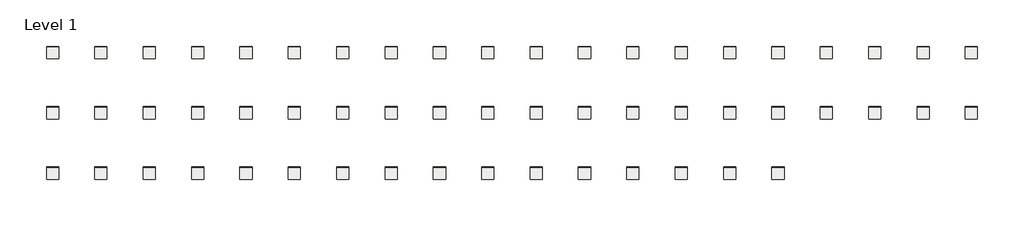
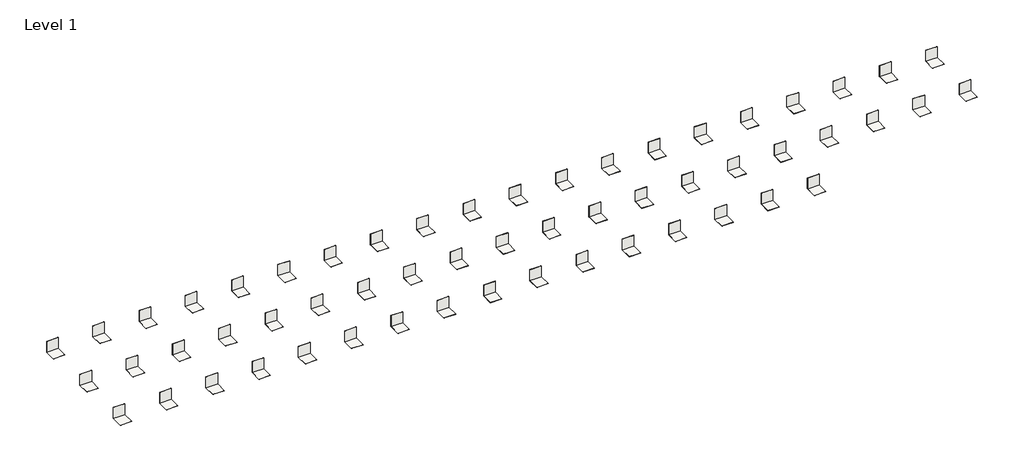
# One storey: 112 coverings.
"""IFC4 building model written with IfcOpenShell, lengths in millimetres."""

from ifc_helpers import new_model, si_unit, frame, origin, origin_with_axes, place, context, project, spatial, polyline, outline, extrude, element, save

model = new_model("IFC4")

# Units and contexts
model_context = context("Model", 3, world=origin())
ifc_project = project(units=[si_unit("LENGTHUNIT", "METRE", prefix="MILLI")], contexts=[model_context])

# Site, building, storey
site = spatial("IfcSite", under=ifc_project)
building = spatial("IfcBuilding", under=site)
storey = spatial("IfcBuildingStorey", under=building, Name="Level 1", Elevation=0.0)

# Coverings
placement = place(None, origin())
element("IfcCovering", 1, ObjectType="REVIGRÉS-CROMATICA-TC-7x7-MATTNAT-Cromatica_alloy", at=placement, inside=storey, context=model_context, shape_type="SweptSolid", body=[
    extrude(outline(polyline([(2002.0475963, 398.4324289), (1002.0475963, 398.4324289), (1002.0475963, 1398.4324289), (2002.0475963, 1398.4324289), (2002.0475963, 398.4324289)])), frame((0.0, 0.0, -8.5), z_axis=(0.0, 0.0, 1.0), x_axis=(1.0, 0.0, 0.0)), (0.0, 0.0, 1.0), 8.5),
])
element("IfcCovering", 2, ObjectType="REVIGRÉS-CROMATICA-TC-7x7-MATTNAT-Cromatica_alloy", at=placement, inside=storey, context=model_context, shape_type="SweptSolid", body=[
    extrude(outline(polyline([(2002.0475963, 1398.4324289), (1002.0475963, 1398.4324289), (1002.0475963, 1406.9324289), (2002.0475963, 1406.9324289), (2002.0475963, 1398.4324289)])), origin_with_axes(), (0.0, 0.0, 1.0), 1000.0),
])
element("IfcCovering", 3, ObjectType="REVIGRÉS-CROMATICA-TC-7x7-POL-Cromatica_alloy", at=placement, inside=storey, context=model_context, shape_type="SweptSolid", body=[
    extrude(outline(polyline([(6002.0475963, 398.6824289), (5002.0475963, 398.6824289), (5002.0475963, 1398.6824289), (6002.0475963, 1398.6824289), (6002.0475963, 398.6824289)])), frame((0.0, 0.0, -8.0), z_axis=(0.0, 0.0, 1.0), x_axis=(1.0, 0.0, 0.0)), (0.0, 0.0, 1.0), 8.0),
])
element("IfcCovering", 4, ObjectType="REVIGRÉS-CROMATICA-TC-7x7-POL-Cromatica_alloy", at=placement, inside=storey, context=model_context, shape_type="SweptSolid", body=[
    extrude(outline(polyline([(6002.0475963, 1398.6824289), (5002.0475963, 1398.6824289), (5002.0475963, 1406.6824289), (6002.0475963, 1406.6824289), (6002.0475963, 1398.6824289)])), origin_with_axes(), (0.0, 0.0, 1.0), 1000.0),
])
element("IfcCovering", 5, ObjectType="REVIGRÉS-CROMATICA-TC-7x7-MATTNAT-Cromatica_anis", at=placement, inside=storey, context=model_context, shape_type="SweptSolid", body=[
    extrude(outline(polyline([(10002.0475963, 398.4324289), (9002.0475963, 398.4324289), (9002.0475963, 1398.4324289), (10002.0475963, 1398.4324289), (10002.0475963, 398.4324289)])), frame((0.0, 0.0, -8.5), z_axis=(0.0, 0.0, 1.0), x_axis=(1.0, 0.0, 0.0)), (0.0, 0.0, 1.0), 8.5),
])
element("IfcCovering", 6, ObjectType="REVIGRÉS-CROMATICA-TC-7x7-MATTNAT-Cromatica_anis", at=placement, inside=storey, context=model_context, shape_type="SweptSolid", body=[
    extrude(outline(polyline([(10002.0475963, 1398.4324289), (9002.0475963, 1398.4324289), (9002.0475963, 1406.9324289), (10002.0475963, 1406.9324289), (10002.0475963, 1398.4324289)])), origin_with_axes(), (0.0, 0.0, 1.0), 1000.0),
])
element("IfcCovering", 7, ObjectType="REVIGRÉS-CROMATICA-TC-7x7-POL-Cromatica_anis", at=placement, inside=storey, context=model_context, shape_type="SweptSolid", body=[
    extrude(outline(polyline([(14002.0475963, 398.6824289), (13002.0475963, 398.6824289), (13002.0475963, 1398.6824289), (14002.0475963, 1398.6824289), (14002.0475963, 398.6824289)])), frame((0.0, 0.0, -8.0), z_axis=(0.0, 0.0, 1.0), x_axis=(1.0, 0.0, 0.0)), (0.0, 0.0, 1.0), 8.0),
])
element("IfcCovering", 8, ObjectType="REVIGRÉS-CROMATICA-TC-7x7-POL-Cromatica_anis", at=placement, inside=storey, context=model_context, shape_type="SweptSolid", body=[
    extrude(outline(polyline([(14002.0475963, 1398.6824289), (13002.0475963, 1398.6824289), (13002.0475963, 1406.6824289), (14002.0475963, 1406.6824289), (14002.0475963, 1398.6824289)])), origin_with_axes(), (0.0, 0.0, 1.0), 1000.0),
])
element("IfcCovering", 9, ObjectType="REVIGRÉS-CROMATICA-TC-7x7-MATTNAT-Cromatica_antracite", at=placement, inside=storey, context=model_context, shape_type="SweptSolid", body=[
    extrude(outline(polyline([(18002.0475963, 398.4324289), (17002.0475963, 398.4324289), (17002.0475963, 1398.4324289), (18002.0475963, 1398.4324289), (18002.0475963, 398.4324289)])), frame((0.0, 0.0, -8.5), z_axis=(0.0, 0.0, 1.0), x_axis=(1.0, 0.0, 0.0)), (0.0, 0.0, 1.0), 8.5),
])
element("IfcCovering", 10, ObjectType="REVIGRÉS-CROMATICA-TC-7x7-MATTNAT-Cromatica_antracite", at=placement, inside=storey, context=model_context, shape_type="SweptSolid", body=[
    extrude(outline(polyline([(18002.0475963, 1398.4324289), (17002.0475963, 1398.4324289), (17002.0475963, 1406.9324289), (18002.0475963, 1406.9324289), (18002.0475963, 1398.4324289)])), origin_with_axes(), (0.0, 0.0, 1.0), 1000.0),
])
element("IfcCovering", 11, ObjectType="REVIGRÉS-CROMATICA-TC-7x7-POL-Cromatica_antracite", at=placement, inside=storey, context=model_context, shape_type="SweptSolid", body=[
    extrude(outline(polyline([(22002.0475963, 398.6824289), (21002.0475963, 398.6824289), (21002.0475963, 1398.6824289), (22002.0475963, 1398.6824289), (22002.0475963, 398.6824289)])), frame((0.0, 0.0, -8.0), z_axis=(0.0, 0.0, 1.0), x_axis=(1.0, 0.0, 0.0)), (0.0, 0.0, 1.0), 8.0),
])
element("IfcCovering", 12, ObjectType="REVIGRÉS-CROMATICA-TC-7x7-POL-Cromatica_antracite", at=placement, inside=storey, context=model_context, shape_type="SweptSolid", body=[
    extrude(outline(polyline([(22002.0475963, 1398.6824289), (21002.0475963, 1398.6824289), (21002.0475963, 1406.6824289), (22002.0475963, 1406.6824289), (22002.0475963, 1398.6824289)])), origin_with_axes(), (0.0, 0.0, 1.0), 1000.0),
])
element("IfcCovering", 13, ObjectType="REVIGRÉS-CROMATICA-TC-7x7-MATTNAT-Cromatica_arg prata", at=placement, inside=storey, context=model_context, shape_type="SweptSolid", body=[
    extrude(outline(polyline([(26002.0475963, 398.4324289), (25002.0475963, 398.4324289), (25002.0475963, 1398.4324289), (26002.0475963, 1398.4324289), (26002.0475963, 398.4324289)])), frame((0.0, 0.0, -8.5), z_axis=(0.0, 0.0, 1.0), x_axis=(1.0, 0.0, 0.0)), (0.0, 0.0, 1.0), 8.5),
])
element("IfcCovering", 14, ObjectType="REVIGRÉS-CROMATICA-TC-7x7-MATTNAT-Cromatica_arg prata", at=placement, inside=storey, context=model_context, shape_type="SweptSolid", body=[
    extrude(outline(polyline([(26002.0475963, 1398.4324289), (25002.0475963, 1398.4324289), (25002.0475963, 1406.9324289), (26002.0475963, 1406.9324289), (26002.0475963, 1398.4324289)])), origin_with_axes(), (0.0, 0.0, 1.0), 1000.0),
])
element("IfcCovering", 15, ObjectType="REVIGRÉS-CROMATICA-TC-7x7-POL-Cromatica_arg prata", at=placement, inside=storey, context=model_context, shape_type="SweptSolid", body=[
    extrude(outline(polyline([(30002.0475963, 398.4324289), (29002.0475963, 398.4324289), (29002.0475963, 1398.6824289), (30002.0475963, 1398.6824289), (30002.0475963, 398.4324289)])), frame((0.0, 0.0, -8.0), z_axis=(0.0, 0.0, 1.0), x_axis=(1.0, 0.0, 0.0)), (0.0, 0.0, 1.0), 8.0),
])
element("IfcCovering", 16, ObjectType="REVIGRÉS-CROMATICA-TC-7x7-POL-Cromatica_arg prata", at=placement, inside=storey, context=model_context, shape_type="SweptSolid", body=[
    extrude(outline(polyline([(30002.0475963, 1398.6824289), (29002.0475963, 1398.6824289), (29002.0475963, 1406.6824289), (30002.0475963, 1406.6824289), (30002.0475963, 1398.6824289)])), origin_with_axes(), (0.0, 0.0, 1.0), 1000.0),
])
element("IfcCovering", 17, ObjectType="REVIGRÉS-CROMATICA-TC-7x7-MATTNAT-Cromatica_astral", at=placement, inside=storey, context=model_context, shape_type="SweptSolid", body=[
    extrude(outline(polyline([(34002.0475963, 398.4324289), (33002.0475963, 398.4324289), (33002.0475963, 1398.4324289), (34002.0475963, 1398.4324289), (34002.0475963, 398.4324289)])), frame((0.0, 0.0, -8.5), z_axis=(0.0, 0.0, 1.0), x_axis=(1.0, 0.0, 0.0)), (0.0, 0.0, 1.0), 8.5),
])
element("IfcCovering", 18, ObjectType="REVIGRÉS-CROMATICA-TC-7x7-MATTNAT-Cromatica_astral", at=placement, inside=storey, context=model_context, shape_type="SweptSolid", body=[
    extrude(outline(polyline([(34002.0475963, 1398.4324289), (33002.0475963, 1398.4324289), (33002.0475963, 1406.9324289), (34002.0475963, 1406.9324289), (34002.0475963, 1398.4324289)])), origin_with_axes(), (0.0, 0.0, 1.0), 1000.0),
])
element("IfcCovering", 19, ObjectType="REVIGRÉS-CROMATICA-TC-7x7-POL-Cromatica_astral", at=placement, inside=storey, context=model_context, shape_type="SweptSolid", body=[
    extrude(outline(polyline([(38002.0475963, 398.4324289), (37002.0475963, 398.4324289), (37002.0475963, 1398.6824289), (38002.0475963, 1398.6824289), (38002.0475963, 398.4324289)])), frame((0.0, 0.0, -8.0), z_axis=(0.0, 0.0, 1.0), x_axis=(1.0, 0.0, 0.0)), (0.0, 0.0, 1.0), 8.0),
])
element("IfcCovering", 20, ObjectType="REVIGRÉS-CROMATICA-TC-7x7-POL-Cromatica_astral", at=placement, inside=storey, context=model_context, shape_type="SweptSolid", body=[
    extrude(outline(polyline([(38002.0475963, 1398.6824289), (37002.0475963, 1398.6824289), (37002.0475963, 1406.6824289), (38002.0475963, 1406.6824289), (38002.0475963, 1398.6824289)])), origin_with_axes(), (0.0, 0.0, 1.0), 1000.0),
])
element("IfcCovering", 21, ObjectType="REVIGRÉS-CROMATICA-TC-7x7-MATTNAT-Cromatica_bege", at=placement, inside=storey, context=model_context, shape_type="SweptSolid", body=[
    extrude(outline(polyline([(42002.0475963, 398.4324289), (41002.0475963, 398.4324289), (41002.0475963, 1398.4324289), (42002.0475963, 1398.4324289), (42002.0475963, 398.4324289)])), frame((0.0, 0.0, -8.5), z_axis=(0.0, 0.0, 1.0), x_axis=(1.0, 0.0, 0.0)), (0.0, 0.0, 1.0), 8.5),
])
element("IfcCovering", 22, ObjectType="REVIGRÉS-CROMATICA-TC-7x7-MATTNAT-Cromatica_bege", at=placement, inside=storey, context=model_context, shape_type="SweptSolid", body=[
    extrude(outline(polyline([(42002.0475963, 1398.4324289), (41002.0475963, 1398.4324289), (41002.0475963, 1406.9324289), (42002.0475963, 1406.9324289), (42002.0475963, 1398.4324289)])), origin_with_axes(), (0.0, 0.0, 1.0), 1000.0),
])
element("IfcCovering", 23, ObjectType="REVIGRÉS-CROMATICA-TC-7x7-POL-Cromatica_bege", at=placement, inside=storey, context=model_context, shape_type="SweptSolid", body=[
    extrude(outline(polyline([(46002.0475963, 398.4324289), (45002.0475963, 398.4324289), (45002.0475963, 1398.6824289), (46002.0475963, 1398.6824289), (46002.0475963, 398.4324289)])), frame((0.0, 0.0, -8.0), z_axis=(0.0, 0.0, 1.0), x_axis=(1.0, 0.0, 0.0)), (0.0, 0.0, 1.0), 8.0),
])
element("IfcCovering", 24, ObjectType="REVIGRÉS-CROMATICA-TC-7x7-POL-Cromatica_bege", at=placement, inside=storey, context=model_context, shape_type="SweptSolid", body=[
    extrude(outline(polyline([(46002.0475963, 1398.6824289), (45002.0475963, 1398.6824289), (45002.0475963, 1406.6824289), (46002.0475963, 1406.6824289), (46002.0475963, 1398.6824289)])), origin_with_axes(), (0.0, 0.0, 1.0), 1000.0),
])
element("IfcCovering", 25, ObjectType="REVIGRÉS-CROMATICA-TC-7x7-MATTNAT-Cromatica_bone", at=placement, inside=storey, context=model_context, shape_type="SweptSolid", body=[
    extrude(outline(polyline([(50002.0475963, 398.4324289), (49002.0475963, 398.4324289), (49002.0475963, 1398.4324289), (50002.0475963, 1398.4324289), (50002.0475963, 398.4324289)])), frame((0.0, 0.0, -8.5), z_axis=(0.0, 0.0, 1.0), x_axis=(1.0, 0.0, 0.0)), (0.0, 0.0, 1.0), 8.5),
])
element("IfcCovering", 26, ObjectType="REVIGRÉS-CROMATICA-TC-7x7-MATTNAT-Cromatica_bone", at=placement, inside=storey, context=model_context, shape_type="SweptSolid", body=[
    extrude(outline(polyline([(50002.0475963, 1398.4324289), (49002.0475963, 1398.4324289), (49002.0475963, 1406.9324289), (50002.0475963, 1406.9324289), (50002.0475963, 1398.4324289)])), origin_with_axes(), (0.0, 0.0, 1.0), 1000.0),
])
element("IfcCovering", 27, ObjectType="REVIGRÉS-CROMATICA-TC-7x7-POL-Cromatica_bone", at=placement, inside=storey, context=model_context, shape_type="SweptSolid", body=[
    extrude(outline(polyline([(54002.0475963, 398.4324289), (53002.0475963, 398.4324289), (53002.0475963, 1398.6824289), (54002.0475963, 1398.6824289), (54002.0475963, 398.4324289)])), frame((0.0, 0.0, -8.0), z_axis=(0.0, 0.0, 1.0), x_axis=(1.0, 0.0, 0.0)), (0.0, 0.0, 1.0), 8.0),
])
element("IfcCovering", 28, ObjectType="REVIGRÉS-CROMATICA-TC-7x7-POL-Cromatica_bone", at=placement, inside=storey, context=model_context, shape_type="SweptSolid", body=[
    extrude(outline(polyline([(54002.0475963, 1398.6824289), (53002.0475963, 1398.6824289), (53002.0475963, 1406.6824289), (54002.0475963, 1406.6824289), (54002.0475963, 1398.6824289)])), origin_with_axes(), (0.0, 0.0, 1.0), 1000.0),
])
element("IfcCovering", 29, ObjectType="REVIGRÉS-CROMATICA-TC-7x7-MATTNAT-Cromatica_brick", at=placement, inside=storey, context=model_context, shape_type="SweptSolid", body=[
    extrude(outline(polyline([(58002.0475963, 398.4324289), (57002.0475963, 398.4324289), (57002.0475963, 1398.4324289), (58002.0475963, 1398.4324289), (58002.0475963, 398.4324289)])), frame((0.0, 0.0, -8.5), z_axis=(0.0, 0.0, 1.0), x_axis=(1.0, 0.0, 0.0)), (0.0, 0.0, 1.0), 8.5),
])
element("IfcCovering", 30, ObjectType="REVIGRÉS-CROMATICA-TC-7x7-MATTNAT-Cromatica_brick", at=placement, inside=storey, context=model_context, shape_type="SweptSolid", body=[
    extrude(outline(polyline([(58002.0475963, 1398.4324289), (57002.0475963, 1398.4324289), (57002.0475963, 1406.9324289), (58002.0475963, 1406.9324289), (58002.0475963, 1398.4324289)])), origin_with_axes(), (0.0, 0.0, 1.0), 1000.0),
])
element("IfcCovering", 31, ObjectType="REVIGRÉS-CROMATICA-TC-7x7-POL-Cromatica_brick", at=placement, inside=storey, context=model_context, shape_type="SweptSolid", body=[
    extrude(outline(polyline([(62002.0475963, 398.4324289), (61002.0475963, 398.4324289), (61002.0475963, 1398.6824289), (62002.0475963, 1398.6824289), (62002.0475963, 398.4324289)])), frame((0.0, 0.0, -8.0), z_axis=(0.0, 0.0, 1.0), x_axis=(1.0, 0.0, 0.0)), (0.0, 0.0, 1.0), 8.0),
])
element("IfcCovering", 32, ObjectType="REVIGRÉS-CROMATICA-TC-7x7-POL-Cromatica_brick", at=placement, inside=storey, context=model_context, shape_type="SweptSolid", body=[
    extrude(outline(polyline([(62002.0475963, 1398.6824289), (61002.0475963, 1398.6824289), (61002.0475963, 1406.6824289), (62002.0475963, 1406.6824289), (62002.0475963, 1398.6824289)])), origin_with_axes(), (0.0, 0.0, 1.0), 1000.0),
])
element("IfcCovering", 33, ObjectType="REVIGRÉS-CROMATICA-TC-7x7-MATTNAT-Cromatica_cobalto", at=placement, inside=storey, context=model_context, shape_type="SweptSolid", body=[
    extrude(outline(polyline([(66002.0475963, 398.4324289), (65002.0475963, 398.4324289), (65002.0475963, 1398.4324289), (66002.0475963, 1398.4324289), (66002.0475963, 398.4324289)])), frame((0.0, 0.0, -8.5), z_axis=(0.0, 0.0, 1.0), x_axis=(1.0, 0.0, 0.0)), (0.0, 0.0, 1.0), 8.5),
])
element("IfcCovering", 34, ObjectType="REVIGRÉS-CROMATICA-TC-7x7-MATTNAT-Cromatica_cobalto", at=placement, inside=storey, context=model_context, shape_type="SweptSolid", body=[
    extrude(outline(polyline([(66002.0475963, 1398.4324289), (65002.0475963, 1398.4324289), (65002.0475963, 1406.9324289), (66002.0475963, 1406.9324289), (66002.0475963, 1398.4324289)])), origin_with_axes(), (0.0, 0.0, 1.0), 1000.0),
])
element("IfcCovering", 35, ObjectType="REVIGRÉS-CROMATICA-TC-7x7-POL-Cromatica_cobalto", at=placement, inside=storey, context=model_context, shape_type="SweptSolid", body=[
    extrude(outline(polyline([(70002.0475963, 398.4324289), (69002.0475963, 398.4324289), (69002.0475963, 1398.6824289), (70002.0475963, 1398.6824289), (70002.0475963, 398.4324289)])), frame((0.0, 0.0, -8.0), z_axis=(0.0, 0.0, 1.0), x_axis=(1.0, 0.0, 0.0)), (0.0, 0.0, 1.0), 8.0),
])
element("IfcCovering", 36, ObjectType="REVIGRÉS-CROMATICA-TC-7x7-POL-Cromatica_cobalto", at=placement, inside=storey, context=model_context, shape_type="SweptSolid", body=[
    extrude(outline(polyline([(70002.0475963, 1398.6824289), (69002.0475963, 1398.6824289), (69002.0475963, 1406.6824289), (70002.0475963, 1406.6824289), (70002.0475963, 1398.6824289)])), origin_with_axes(), (0.0, 0.0, 1.0), 1000.0),
])
element("IfcCovering", 37, ObjectType="REVIGRÉS-CROMATICA-TC-7x7-MATTNAT-Cromatica_coral", at=placement, inside=storey, context=model_context, shape_type="SweptSolid", body=[
    extrude(outline(polyline([(74002.0475963, 398.4324289), (73002.0475963, 398.4324289), (73002.0475963, 1398.4324289), (74002.0475963, 1398.4324289), (74002.0475963, 398.4324289)])), frame((0.0, 0.0, -8.5), z_axis=(0.0, 0.0, 1.0), x_axis=(1.0, 0.0, 0.0)), (0.0, 0.0, 1.0), 8.5),
])
element("IfcCovering", 38, ObjectType="REVIGRÉS-CROMATICA-TC-7x7-MATTNAT-Cromatica_coral", at=placement, inside=storey, context=model_context, shape_type="SweptSolid", body=[
    extrude(outline(polyline([(74002.0475963, 1398.4324289), (73002.0475963, 1398.4324289), (73002.0475963, 1406.9324289), (74002.0475963, 1406.9324289), (74002.0475963, 1398.4324289)])), origin_with_axes(), (0.0, 0.0, 1.0), 1000.0),
])
element("IfcCovering", 39, ObjectType="REVIGRÉS-CROMATICA-TC-7x7-POL-Cromatica_coral", at=placement, inside=storey, context=model_context, shape_type="SweptSolid", body=[
    extrude(outline(polyline([(78002.0475963, 398.4324289), (77002.0475963, 398.4324289), (77002.0475963, 1398.6824289), (78002.0475963, 1398.6824289), (78002.0475963, 398.4324289)])), frame((0.0, 0.0, -8.0), z_axis=(0.0, 0.0, 1.0), x_axis=(1.0, 0.0, 0.0)), (0.0, 0.0, 1.0), 8.0),
])
element("IfcCovering", 40, ObjectType="REVIGRÉS-CROMATICA-TC-7x7-POL-Cromatica_coral", at=placement, inside=storey, context=model_context, shape_type="SweptSolid", body=[
    extrude(outline(polyline([(78002.0475963, 1398.6824289), (77002.0475963, 1398.6824289), (77002.0475963, 1406.6824289), (78002.0475963, 1406.6824289), (78002.0475963, 1398.6824289)])), origin_with_axes(), (0.0, 0.0, 1.0), 1000.0),
])
element("IfcCovering", 41, ObjectType="REVIGRÉS-CROMATICA-TC-7x7-MATTNAT-Cromatica_grafite", at=placement, inside=storey, context=model_context, shape_type="SweptSolid", body=[
    extrude(outline(polyline([(2002.0475963, -4601.567571), (1002.0475963, -4601.567571), (1002.0475963, -3601.567571), (2002.0475963, -3601.567571), (2002.0475963, -4601.567571)])), frame((0.0, 0.0, -8.5), z_axis=(0.0, 0.0, 1.0), x_axis=(1.0, 0.0, 0.0)), (0.0, 0.0, 1.0), 8.5),
])
element("IfcCovering", 42, ObjectType="REVIGRÉS-CROMATICA-TC-7x7-MATTNAT-Cromatica_grafite", at=placement, inside=storey, context=model_context, shape_type="SweptSolid", body=[
    extrude(outline(polyline([(2002.0475963, -3601.567571), (1002.0475963, -3601.567571), (1002.0475963, -3593.067571), (2002.0475963, -3593.067571), (2002.0475963, -3601.567571)])), origin_with_axes(), (0.0, 0.0, 1.0), 1000.0),
])
element("IfcCovering", 43, ObjectType="REVIGRÉS-CROMATICA-TC-7x7-POL-Cromatica_grafite", at=placement, inside=storey, context=model_context, shape_type="SweptSolid", body=[
    extrude(outline(polyline([(6002.0475963, -4601.317571), (5002.0475963, -4601.317571), (5002.0475963, -3601.317571), (6002.0475963, -3601.317571), (6002.0475963, -4601.317571)])), frame((0.0, 0.0, -8.0), z_axis=(0.0, 0.0, 1.0), x_axis=(1.0, 0.0, 0.0)), (0.0, 0.0, 1.0), 8.0),
])
element("IfcCovering", 44, ObjectType="REVIGRÉS-CROMATICA-TC-7x7-POL-Cromatica_grafite", at=placement, inside=storey, context=model_context, shape_type="SweptSolid", body=[
    extrude(outline(polyline([(6002.0475963, -3601.317571), (5002.0475963, -3601.317571), (5002.0475963, -3593.317571), (6002.0475963, -3593.317571), (6002.0475963, -3601.317571)])), origin_with_axes(), (0.0, 0.0, 1.0), 1000.0),
])
element("IfcCovering", 45, ObjectType="REVIGRÉS-CROMATICA-TC-7x7-MATTNAT-Cromatica_ice", at=placement, inside=storey, context=model_context, shape_type="SweptSolid", body=[
    extrude(outline(polyline([(10002.0475963, -4601.567571), (9002.0475963, -4601.567571), (9002.0475963, -3601.567571), (10002.0475963, -3601.567571), (10002.0475963, -4601.567571)])), frame((0.0, 0.0, -8.5), z_axis=(0.0, 0.0, 1.0), x_axis=(1.0, 0.0, 0.0)), (0.0, 0.0, 1.0), 8.5),
])
element("IfcCovering", 46, ObjectType="REVIGRÉS-CROMATICA-TC-7x7-MATTNAT-Cromatica_ice", at=placement, inside=storey, context=model_context, shape_type="SweptSolid", body=[
    extrude(outline(polyline([(10002.0475963, -3601.567571), (9002.0475963, -3601.567571), (9002.0475963, -3593.067571), (10002.0475963, -3593.067571), (10002.0475963, -3601.567571)])), origin_with_axes(), (0.0, 0.0, 1.0), 1000.0),
])
element("IfcCovering", 47, ObjectType="REVIGRÉS-CROMATICA-TC-7x7-POL-Cromatica_ice", at=placement, inside=storey, context=model_context, shape_type="SweptSolid", body=[
    extrude(outline(polyline([(14002.0475963, -4601.317571), (13002.0475963, -4601.317571), (13002.0475963, -3601.317571), (14002.0475963, -3601.317571), (14002.0475963, -4601.317571)])), frame((0.0, 0.0, -8.0), z_axis=(0.0, 0.0, 1.0), x_axis=(1.0, 0.0, 0.0)), (0.0, 0.0, 1.0), 8.0),
])
element("IfcCovering", 48, ObjectType="REVIGRÉS-CROMATICA-TC-7x7-POL-Cromatica_ice", at=placement, inside=storey, context=model_context, shape_type="SweptSolid", body=[
    extrude(outline(polyline([(14002.0475963, -3601.317571), (13002.0475963, -3601.317571), (13002.0475963, -3593.317571), (14002.0475963, -3593.317571), (14002.0475963, -3601.317571)])), origin_with_axes(), (0.0, 0.0, 1.0), 1000.0),
])
element("IfcCovering", 49, ObjectType="REVIGRÉS-CROMATICA-TC-7x7-MATTNAT-Cromatica_indigo", at=placement, inside=storey, context=model_context, shape_type="SweptSolid", body=[
    extrude(outline(polyline([(18002.0475963, -4601.567571), (17002.0475963, -4601.567571), (17002.0475963, -3601.567571), (18002.0475963, -3601.567571), (18002.0475963, -4601.567571)])), frame((0.0, 0.0, -8.5), z_axis=(0.0, 0.0, 1.0), x_axis=(1.0, 0.0, 0.0)), (0.0, 0.0, 1.0), 8.5),
])
element("IfcCovering", 50, ObjectType="REVIGRÉS-CROMATICA-TC-7x7-MATTNAT-Cromatica_indigo", at=placement, inside=storey, context=model_context, shape_type="SweptSolid", body=[
    extrude(outline(polyline([(18002.0475963, -3601.567571), (17002.0475963, -3601.567571), (17002.0475963, -3593.067571), (18002.0475963, -3593.067571), (18002.0475963, -3601.567571)])), origin_with_axes(), (0.0, 0.0, 1.0), 1000.0),
])
element("IfcCovering", 51, ObjectType="REVIGRÉS-CROMATICA-TC-7x7-POL-Cromatica_indigo", at=placement, inside=storey, context=model_context, shape_type="SweptSolid", body=[
    extrude(outline(polyline([(22002.0475963, -4601.317571), (21002.0475963, -4601.317571), (21002.0475963, -3601.317571), (22002.0475963, -3601.317571), (22002.0475963, -4601.317571)])), frame((0.0, 0.0, -8.0), z_axis=(0.0, 0.0, 1.0), x_axis=(1.0, 0.0, 0.0)), (0.0, 0.0, 1.0), 8.0),
])
element("IfcCovering", 52, ObjectType="REVIGRÉS-CROMATICA-TC-7x7-POL-Cromatica_indigo", at=placement, inside=storey, context=model_context, shape_type="SweptSolid", body=[
    extrude(outline(polyline([(22002.0475963, -3601.317571), (21002.0475963, -3601.317571), (21002.0475963, -3593.317571), (22002.0475963, -3593.317571), (22002.0475963, -3601.317571)])), origin_with_axes(), (0.0, 0.0, 1.0), 1000.0),
])
element("IfcCovering", 53, ObjectType="REVIGRÉS-CROMATICA-TC-7x7-MATTNAT-Cromatica_jade", at=placement, inside=storey, context=model_context, shape_type="SweptSolid", body=[
    extrude(outline(polyline([(26002.0475963, -4601.567571), (25002.0475963, -4601.567571), (25002.0475963, -3601.567571), (26002.0475963, -3601.567571), (26002.0475963, -4601.567571)])), frame((0.0, 0.0, -8.5), z_axis=(0.0, 0.0, 1.0), x_axis=(1.0, 0.0, 0.0)), (0.0, 0.0, 1.0), 8.5),
])
element("IfcCovering", 54, ObjectType="REVIGRÉS-CROMATICA-TC-7x7-MATTNAT-Cromatica_jade", at=placement, inside=storey, context=model_context, shape_type="SweptSolid", body=[
    extrude(outline(polyline([(26002.0475963, -3601.567571), (25002.0475963, -3601.567571), (25002.0475963, -3593.067571), (26002.0475963, -3593.067571), (26002.0475963, -3601.567571)])), origin_with_axes(), (0.0, 0.0, 1.0), 1000.0),
])
element("IfcCovering", 55, ObjectType="REVIGRÉS-CROMATICA-TC-7x7-POL-Cromatica_jade", at=placement, inside=storey, context=model_context, shape_type="SweptSolid", body=[
    extrude(outline(polyline([(30002.0475963, -4601.567571), (29002.0475963, -4601.567571), (29002.0475963, -3601.317571), (30002.0475963, -3601.317571), (30002.0475963, -4601.567571)])), frame((0.0, 0.0, -8.0), z_axis=(0.0, 0.0, 1.0), x_axis=(1.0, 0.0, 0.0)), (0.0, 0.0, 1.0), 8.0),
])
element("IfcCovering", 56, ObjectType="REVIGRÉS-CROMATICA-TC-7x7-POL-Cromatica_jade", at=placement, inside=storey, context=model_context, shape_type="SweptSolid", body=[
    extrude(outline(polyline([(30002.0475963, -3601.317571), (29002.0475963, -3601.317571), (29002.0475963, -3593.317571), (30002.0475963, -3593.317571), (30002.0475963, -3601.317571)])), origin_with_axes(), (0.0, 0.0, 1.0), 1000.0),
])
element("IfcCovering", 57, ObjectType="REVIGRÉS-CROMATICA-TC-7x7-MATTNAT-Cromatica_jet", at=placement, inside=storey, context=model_context, shape_type="SweptSolid", body=[
    extrude(outline(polyline([(34002.0475963, -4601.567571), (33002.0475963, -4601.567571), (33002.0475963, -3601.567571), (34002.0475963, -3601.567571), (34002.0475963, -4601.567571)])), frame((0.0, 0.0, -8.5), z_axis=(0.0, 0.0, 1.0), x_axis=(1.0, 0.0, 0.0)), (0.0, 0.0, 1.0), 8.5),
])
element("IfcCovering", 58, ObjectType="REVIGRÉS-CROMATICA-TC-7x7-MATTNAT-Cromatica_jet", at=placement, inside=storey, context=model_context, shape_type="SweptSolid", body=[
    extrude(outline(polyline([(34002.0475963, -3601.567571), (33002.0475963, -3601.567571), (33002.0475963, -3593.067571), (34002.0475963, -3593.067571), (34002.0475963, -3601.567571)])), origin_with_axes(), (0.0, 0.0, 1.0), 1000.0),
])
element("IfcCovering", 59, ObjectType="REVIGRÉS-CROMATICA-TC-7x7-POL-Cromatica_jet", at=placement, inside=storey, context=model_context, shape_type="SweptSolid", body=[
    extrude(outline(polyline([(38002.0475963, -4601.567571), (37002.0475963, -4601.567571), (37002.0475963, -3601.317571), (38002.0475963, -3601.317571), (38002.0475963, -4601.567571)])), frame((0.0, 0.0, -8.0), z_axis=(0.0, 0.0, 1.0), x_axis=(1.0, 0.0, 0.0)), (0.0, 0.0, 1.0), 8.0),
])
element("IfcCovering", 60, ObjectType="REVIGRÉS-CROMATICA-TC-7x7-POL-Cromatica_jet", at=placement, inside=storey, context=model_context, shape_type="SweptSolid", body=[
    extrude(outline(polyline([(38002.0475963, -3601.317571), (37002.0475963, -3601.317571), (37002.0475963, -3593.317571), (38002.0475963, -3593.317571), (38002.0475963, -3601.317571)])), origin_with_axes(), (0.0, 0.0, 1.0), 1000.0),
])
element("IfcCovering", 61, ObjectType="REVIGRÉS-CROMATICA-TC-7x7-MATTNAT-Cromatica_lava", at=placement, inside=storey, context=model_context, shape_type="SweptSolid", body=[
    extrude(outline(polyline([(42002.0475963, -4601.567571), (41002.0475963, -4601.567571), (41002.0475963, -3601.567571), (42002.0475963, -3601.567571), (42002.0475963, -4601.567571)])), frame((0.0, 0.0, -8.5), z_axis=(0.0, 0.0, 1.0), x_axis=(1.0, 0.0, 0.0)), (0.0, 0.0, 1.0), 8.5),
])
element("IfcCovering", 62, ObjectType="REVIGRÉS-CROMATICA-TC-7x7-MATTNAT-Cromatica_lava", at=placement, inside=storey, context=model_context, shape_type="SweptSolid", body=[
    extrude(outline(polyline([(42002.0475963, -3601.567571), (41002.0475963, -3601.567571), (41002.0475963, -3593.067571), (42002.0475963, -3593.067571), (42002.0475963, -3601.567571)])), origin_with_axes(), (0.0, 0.0, 1.0), 1000.0),
])
element("IfcCovering", 63, ObjectType="REVIGRÉS-CROMATICA-TC-7x7-POL-Cromatica_lava", at=placement, inside=storey, context=model_context, shape_type="SweptSolid", body=[
    extrude(outline(polyline([(46002.0475963, -4601.567571), (45002.0475963, -4601.567571), (45002.0475963, -3601.317571), (46002.0475963, -3601.317571), (46002.0475963, -4601.567571)])), frame((0.0, 0.0, -8.0), z_axis=(0.0, 0.0, 1.0), x_axis=(1.0, 0.0, 0.0)), (0.0, 0.0, 1.0), 8.0),
])
element("IfcCovering", 64, ObjectType="REVIGRÉS-CROMATICA-TC-7x7-POL-Cromatica_lava", at=placement, inside=storey, context=model_context, shape_type="SweptSolid", body=[
    extrude(outline(polyline([(46002.0475963, -3601.317571), (45002.0475963, -3601.317571), (45002.0475963, -3593.317571), (46002.0475963, -3593.317571), (46002.0475963, -3601.317571)])), origin_with_axes(), (0.0, 0.0, 1.0), 1000.0),
])
element("IfcCovering", 65, ObjectType="REVIGRÉS-CROMATICA-TC-7x7-MATTNAT-Cromatica_ocre", at=placement, inside=storey, context=model_context, shape_type="SweptSolid", body=[
    extrude(outline(polyline([(50002.0475963, -4601.567571), (49002.0475963, -4601.567571), (49002.0475963, -3601.567571), (50002.0475963, -3601.567571), (50002.0475963, -4601.567571)])), frame((0.0, 0.0, -8.5), z_axis=(0.0, 0.0, 1.0), x_axis=(1.0, 0.0, 0.0)), (0.0, 0.0, 1.0), 8.5),
])
element("IfcCovering", 66, ObjectType="REVIGRÉS-CROMATICA-TC-7x7-MATTNAT-Cromatica_ocre", at=placement, inside=storey, context=model_context, shape_type="SweptSolid", body=[
    extrude(outline(polyline([(50002.0475963, -3601.567571), (49002.0475963, -3601.567571), (49002.0475963, -3593.067571), (50002.0475963, -3593.067571), (50002.0475963, -3601.567571)])), origin_with_axes(), (0.0, 0.0, 1.0), 1000.0),
])
element("IfcCovering", 67, ObjectType="REVIGRÉS-CROMATICA-TC-7x7-POL-Cromatica_ocre", at=placement, inside=storey, context=model_context, shape_type="SweptSolid", body=[
    extrude(outline(polyline([(54002.0475963, -4601.567571), (53002.0475963, -4601.567571), (53002.0475963, -3601.317571), (54002.0475963, -3601.317571), (54002.0475963, -4601.567571)])), frame((0.0, 0.0, -8.0), z_axis=(0.0, 0.0, 1.0), x_axis=(1.0, 0.0, 0.0)), (0.0, 0.0, 1.0), 8.0),
])
element("IfcCovering", 68, ObjectType="REVIGRÉS-CROMATICA-TC-7x7-POL-Cromatica_ocre", at=placement, inside=storey, context=model_context, shape_type="SweptSolid", body=[
    extrude(outline(polyline([(54002.0475963, -3601.317571), (53002.0475963, -3601.317571), (53002.0475963, -3593.317571), (54002.0475963, -3593.317571), (54002.0475963, -3601.317571)])), origin_with_axes(), (0.0, 0.0, 1.0), 1000.0),
])
element("IfcCovering", 69, ObjectType="REVIGRÉS-CROMATICA-TC-7x7-MATTNAT-Cromatica_oliva", at=placement, inside=storey, context=model_context, shape_type="SweptSolid", body=[
    extrude(outline(polyline([(58002.0475963, -4601.567571), (57002.0475963, -4601.567571), (57002.0475963, -3601.567571), (58002.0475963, -3601.567571), (58002.0475963, -4601.567571)])), frame((0.0, 0.0, -8.5), z_axis=(0.0, 0.0, 1.0), x_axis=(1.0, 0.0, 0.0)), (0.0, 0.0, 1.0), 8.5),
])
element("IfcCovering", 70, ObjectType="REVIGRÉS-CROMATICA-TC-7x7-MATTNAT-Cromatica_oliva", at=placement, inside=storey, context=model_context, shape_type="SweptSolid", body=[
    extrude(outline(polyline([(58002.0475963, -3601.567571), (57002.0475963, -3601.567571), (57002.0475963, -3593.067571), (58002.0475963, -3593.067571), (58002.0475963, -3601.567571)])), origin_with_axes(), (0.0, 0.0, 1.0), 1000.0),
])
element("IfcCovering", 71, ObjectType="REVIGRÉS-CROMATICA-TC-7x7-POL-Cromatica_oliva", at=placement, inside=storey, context=model_context, shape_type="SweptSolid", body=[
    extrude(outline(polyline([(62002.0475963, -4601.567571), (61002.0475963, -4601.567571), (61002.0475963, -3601.317571), (62002.0475963, -3601.317571), (62002.0475963, -4601.567571)])), frame((0.0, 0.0, -8.0), z_axis=(0.0, 0.0, 1.0), x_axis=(1.0, 0.0, 0.0)), (0.0, 0.0, 1.0), 8.0),
])
element("IfcCovering", 72, ObjectType="REVIGRÉS-CROMATICA-TC-7x7-POL-Cromatica_oliva", at=placement, inside=storey, context=model_context, shape_type="SweptSolid", body=[
    extrude(outline(polyline([(62002.0475963, -3601.317571), (61002.0475963, -3601.317571), (61002.0475963, -3593.317571), (62002.0475963, -3593.317571), (62002.0475963, -3601.317571)])), origin_with_axes(), (0.0, 0.0, 1.0), 1000.0),
])
element("IfcCovering", 73, ObjectType="REVIGRÉS-CROMATICA-TC-7x7-MATTNAT-Cromatica_opala", at=placement, inside=storey, context=model_context, shape_type="SweptSolid", body=[
    extrude(outline(polyline([(66002.0475963, -4601.567571), (65002.0475963, -4601.567571), (65002.0475963, -3601.567571), (66002.0475963, -3601.567571), (66002.0475963, -4601.567571)])), frame((0.0, 0.0, -8.5), z_axis=(0.0, 0.0, 1.0), x_axis=(1.0, 0.0, 0.0)), (0.0, 0.0, 1.0), 8.5),
])
element("IfcCovering", 74, ObjectType="REVIGRÉS-CROMATICA-TC-7x7-MATTNAT-Cromatica_opala", at=placement, inside=storey, context=model_context, shape_type="SweptSolid", body=[
    extrude(outline(polyline([(66002.0475963, -3601.567571), (65002.0475963, -3601.567571), (65002.0475963, -3593.067571), (66002.0475963, -3593.067571), (66002.0475963, -3601.567571)])), origin_with_axes(), (0.0, 0.0, 1.0), 1000.0),
])
element("IfcCovering", 75, ObjectType="REVIGRÉS-CROMATICA-TC-7x7-POL-Cromatica_opala", at=placement, inside=storey, context=model_context, shape_type="SweptSolid", body=[
    extrude(outline(polyline([(70002.0475963, -4601.567571), (69002.0475963, -4601.567571), (69002.0475963, -3601.317571), (70002.0475963, -3601.317571), (70002.0475963, -4601.567571)])), frame((0.0, 0.0, -8.0), z_axis=(0.0, 0.0, 1.0), x_axis=(1.0, 0.0, 0.0)), (0.0, 0.0, 1.0), 8.0),
])
element("IfcCovering", 76, ObjectType="REVIGRÉS-CROMATICA-TC-7x7-POL-Cromatica_opala", at=placement, inside=storey, context=model_context, shape_type="SweptSolid", body=[
    extrude(outline(polyline([(70002.0475963, -3601.317571), (69002.0475963, -3601.317571), (69002.0475963, -3593.317571), (70002.0475963, -3593.317571), (70002.0475963, -3601.317571)])), origin_with_axes(), (0.0, 0.0, 1.0), 1000.0),
])
element("IfcCovering", 77, ObjectType="REVIGRÉS-CROMATICA-TC-7x7-MATTNAT-Cromatica_palm", at=placement, inside=storey, context=model_context, shape_type="SweptSolid", body=[
    extrude(outline(polyline([(74002.0475963, -4601.567571), (73002.0475963, -4601.567571), (73002.0475963, -3601.567571), (74002.0475963, -3601.567571), (74002.0475963, -4601.567571)])), frame((0.0, 0.0, -8.5), z_axis=(0.0, 0.0, 1.0), x_axis=(1.0, 0.0, 0.0)), (0.0, 0.0, 1.0), 8.5),
])
element("IfcCovering", 78, ObjectType="REVIGRÉS-CROMATICA-TC-7x7-MATTNAT-Cromatica_palm", at=placement, inside=storey, context=model_context, shape_type="SweptSolid", body=[
    extrude(outline(polyline([(74002.0475963, -3601.567571), (73002.0475963, -3601.567571), (73002.0475963, -3593.067571), (74002.0475963, -3593.067571), (74002.0475963, -3601.567571)])), origin_with_axes(), (0.0, 0.0, 1.0), 1000.0),
])
element("IfcCovering", 79, ObjectType="REVIGRÉS-CROMATICA-TC-7x7-POL-Cromatica_palm", at=placement, inside=storey, context=model_context, shape_type="SweptSolid", body=[
    extrude(outline(polyline([(78002.0475963, -4601.567571), (77002.0475963, -4601.567571), (77002.0475963, -3601.317571), (78002.0475963, -3601.317571), (78002.0475963, -4601.567571)])), frame((0.0, 0.0, -8.0), z_axis=(0.0, 0.0, 1.0), x_axis=(1.0, 0.0, 0.0)), (0.0, 0.0, 1.0), 8.0),
])
element("IfcCovering", 80, ObjectType="REVIGRÉS-CROMATICA-TC-7x7-POL-Cromatica_palm", at=placement, inside=storey, context=model_context, shape_type="SweptSolid", body=[
    extrude(outline(polyline([(78002.0475963, -3601.317571), (77002.0475963, -3601.317571), (77002.0475963, -3593.317571), (78002.0475963, -3593.317571), (78002.0475963, -3601.317571)])), origin_with_axes(), (0.0, 0.0, 1.0), 1000.0),
])
element("IfcCovering", 81, ObjectType="REVIGRÉS-CROMATICA-TC-7x7-MATTNAT-Cromatica_pistachio", at=placement, inside=storey, context=model_context, shape_type="SweptSolid", body=[
    extrude(outline(polyline([(2002.0475963, -9601.567571), (1002.0475963, -9601.567571), (1002.0475963, -8601.567571), (2002.0475963, -8601.567571), (2002.0475963, -9601.567571)])), frame((0.0, 0.0, -8.5), z_axis=(0.0, 0.0, 1.0), x_axis=(1.0, 0.0, 0.0)), (0.0, 0.0, 1.0), 8.5),
])
element("IfcCovering", 82, ObjectType="REVIGRÉS-CROMATICA-TC-7x7-MATTNAT-Cromatica_pistachio", at=placement, inside=storey, context=model_context, shape_type="SweptSolid", body=[
    extrude(outline(polyline([(2002.0475963, -8601.567571), (1002.0475963, -8601.567571), (1002.0475963, -8593.067571), (2002.0475963, -8593.067571), (2002.0475963, -8601.567571)])), origin_with_axes(), (0.0, 0.0, 1.0), 1000.0),
])
element("IfcCovering", 83, ObjectType="REVIGRÉS-CROMATICA-TC-7x7-POL-Cromatica_pistachio", at=placement, inside=storey, context=model_context, shape_type="SweptSolid", body=[
    extrude(outline(polyline([(6002.0475963, -9601.317571), (5002.0475963, -9601.317571), (5002.0475963, -8601.317571), (6002.0475963, -8601.317571), (6002.0475963, -9601.317571)])), frame((0.0, 0.0, -8.0), z_axis=(0.0, 0.0, 1.0), x_axis=(1.0, 0.0, 0.0)), (0.0, 0.0, 1.0), 8.0),
])
element("IfcCovering", 84, ObjectType="REVIGRÉS-CROMATICA-TC-7x7-POL-Cromatica_pistachio", at=placement, inside=storey, context=model_context, shape_type="SweptSolid", body=[
    extrude(outline(polyline([(6002.0475963, -8601.317571), (5002.0475963, -8601.317571), (5002.0475963, -8593.317571), (6002.0475963, -8593.317571), (6002.0475963, -8601.317571)])), origin_with_axes(), (0.0, 0.0, 1.0), 1000.0),
])
element("IfcCovering", 85, ObjectType="REVIGRÉS-CROMATICA-TC-7x7-MATTNAT-Cromatica_platina", at=placement, inside=storey, context=model_context, shape_type="SweptSolid", body=[
    extrude(outline(polyline([(10002.0475963, -9601.567571), (9002.0475963, -9601.567571), (9002.0475963, -8601.567571), (10002.0475963, -8601.567571), (10002.0475963, -9601.567571)])), frame((0.0, 0.0, -8.5), z_axis=(0.0, 0.0, 1.0), x_axis=(1.0, 0.0, 0.0)), (0.0, 0.0, 1.0), 8.5),
])
element("IfcCovering", 86, ObjectType="REVIGRÉS-CROMATICA-TC-7x7-MATTNAT-Cromatica_platina", at=placement, inside=storey, context=model_context, shape_type="SweptSolid", body=[
    extrude(outline(polyline([(10002.0475963, -8601.567571), (9002.0475963, -8601.567571), (9002.0475963, -8593.067571), (10002.0475963, -8593.067571), (10002.0475963, -8601.567571)])), origin_with_axes(), (0.0, 0.0, 1.0), 1000.0),
])
element("IfcCovering", 87, ObjectType="REVIGRÉS-CROMATICA-TC-7x7-POL-Cromatica_platina", at=placement, inside=storey, context=model_context, shape_type="SweptSolid", body=[
    extrude(outline(polyline([(14002.0475963, -9601.317571), (13002.0475963, -9601.317571), (13002.0475963, -8601.317571), (14002.0475963, -8601.317571), (14002.0475963, -9601.317571)])), frame((0.0, 0.0, -8.0), z_axis=(0.0, 0.0, 1.0), x_axis=(1.0, 0.0, 0.0)), (0.0, 0.0, 1.0), 8.0),
])
element("IfcCovering", 88, ObjectType="REVIGRÉS-CROMATICA-TC-7x7-POL-Cromatica_platina", at=placement, inside=storey, context=model_context, shape_type="SweptSolid", body=[
    extrude(outline(polyline([(14002.0475963, -8601.317571), (13002.0475963, -8601.317571), (13002.0475963, -8593.317571), (14002.0475963, -8593.317571), (14002.0475963, -8601.317571)])), origin_with_axes(), (0.0, 0.0, 1.0), 1000.0),
])
element("IfcCovering", 89, ObjectType="REVIGRÉS-CROMATICA-TC-7x7-MATTNAT-Cromatica_preto", at=placement, inside=storey, context=model_context, shape_type="SweptSolid", body=[
    extrude(outline(polyline([(18002.0475963, -9601.567571), (17002.0475963, -9601.567571), (17002.0475963, -8601.567571), (18002.0475963, -8601.567571), (18002.0475963, -9601.567571)])), frame((0.0, 0.0, -8.5), z_axis=(0.0, 0.0, 1.0), x_axis=(1.0, 0.0, 0.0)), (0.0, 0.0, 1.0), 8.5),
])
element("IfcCovering", 90, ObjectType="REVIGRÉS-CROMATICA-TC-7x7-MATTNAT-Cromatica_preto", at=placement, inside=storey, context=model_context, shape_type="SweptSolid", body=[
    extrude(outline(polyline([(18002.0475963, -8601.567571), (17002.0475963, -8601.567571), (17002.0475963, -8593.067571), (18002.0475963, -8593.067571), (18002.0475963, -8601.567571)])), origin_with_axes(), (0.0, 0.0, 1.0), 1000.0),
])
element("IfcCovering", 91, ObjectType="REVIGRÉS-CROMATICA-TC-7x7-POL-Cromatica_preto", at=placement, inside=storey, context=model_context, shape_type="SweptSolid", body=[
    extrude(outline(polyline([(22002.0475963, -9601.317571), (21002.0475963, -9601.317571), (21002.0475963, -8601.317571), (22002.0475963, -8601.317571), (22002.0475963, -9601.317571)])), frame((0.0, 0.0, -8.0), z_axis=(0.0, 0.0, 1.0), x_axis=(1.0, 0.0, 0.0)), (0.0, 0.0, 1.0), 8.0),
])
element("IfcCovering", 92, ObjectType="REVIGRÉS-CROMATICA-TC-7x7-POL-Cromatica_preto", at=placement, inside=storey, context=model_context, shape_type="SweptSolid", body=[
    extrude(outline(polyline([(22002.0475963, -8601.317571), (21002.0475963, -8601.317571), (21002.0475963, -8593.317571), (22002.0475963, -8593.317571), (22002.0475963, -8601.317571)])), origin_with_axes(), (0.0, 0.0, 1.0), 1000.0),
])
element("IfcCovering", 93, ObjectType="REVIGRÉS-CROMATICA-TC-7x7-MATTNAT-Cromatica_quartz", at=placement, inside=storey, context=model_context, shape_type="SweptSolid", body=[
    extrude(outline(polyline([(26002.0475963, -9601.567571), (25002.0475963, -9601.567571), (25002.0475963, -8601.567571), (26002.0475963, -8601.567571), (26002.0475963, -9601.567571)])), frame((0.0, 0.0, -8.5), z_axis=(0.0, 0.0, 1.0), x_axis=(1.0, 0.0, 0.0)), (0.0, 0.0, 1.0), 8.5),
])
element("IfcCovering", 94, ObjectType="REVIGRÉS-CROMATICA-TC-7x7-MATTNAT-Cromatica_quartz", at=placement, inside=storey, context=model_context, shape_type="SweptSolid", body=[
    extrude(outline(polyline([(26002.0475963, -8601.567571), (25002.0475963, -8601.567571), (25002.0475963, -8593.067571), (26002.0475963, -8593.067571), (26002.0475963, -8601.567571)])), origin_with_axes(), (0.0, 0.0, 1.0), 1000.0),
])
element("IfcCovering", 95, ObjectType="REVIGRÉS-CROMATICA-TC-7x7-POL-Cromatica_quartz", at=placement, inside=storey, context=model_context, shape_type="SweptSolid", body=[
    extrude(outline(polyline([(30002.0475963, -9601.567571), (29002.0475963, -9601.567571), (29002.0475963, -8601.317571), (30002.0475963, -8601.317571), (30002.0475963, -9601.567571)])), frame((0.0, 0.0, -8.0), z_axis=(0.0, 0.0, 1.0), x_axis=(1.0, 0.0, 0.0)), (0.0, 0.0, 1.0), 8.0),
])
element("IfcCovering", 96, ObjectType="REVIGRÉS-CROMATICA-TC-7x7-POL-Cromatica_quartz", at=placement, inside=storey, context=model_context, shape_type="SweptSolid", body=[
    extrude(outline(polyline([(30002.0475963, -8601.317571), (29002.0475963, -8601.317571), (29002.0475963, -8593.317571), (30002.0475963, -8593.317571), (30002.0475963, -8601.317571)])), origin_with_axes(), (0.0, 0.0, 1.0), 1000.0),
])
element("IfcCovering", 97, ObjectType="REVIGRÉS-CROMATICA-TC-7x7-MATTNAT-Cromatica_superbranco", at=placement, inside=storey, context=model_context, shape_type="SweptSolid", body=[
    extrude(outline(polyline([(34002.0475963, -9601.567571), (33002.0475963, -9601.567571), (33002.0475963, -8601.567571), (34002.0475963, -8601.567571), (34002.0475963, -9601.567571)])), frame((0.0, 0.0, -8.5), z_axis=(0.0, 0.0, 1.0), x_axis=(1.0, 0.0, 0.0)), (0.0, 0.0, 1.0), 8.5),
])
element("IfcCovering", 98, ObjectType="REVIGRÉS-CROMATICA-TC-7x7-MATTNAT-Cromatica_superbranco", at=placement, inside=storey, context=model_context, shape_type="SweptSolid", body=[
    extrude(outline(polyline([(34002.0475963, -8601.567571), (33002.0475963, -8601.567571), (33002.0475963, -8593.067571), (34002.0475963, -8593.067571), (34002.0475963, -8601.567571)])), origin_with_axes(), (0.0, 0.0, 1.0), 1000.0),
])
element("IfcCovering", 99, ObjectType="REVIGRÉS-CROMATICA-TC-7x7-POL-Cromatica_superbranco", at=placement, inside=storey, context=model_context, shape_type="SweptSolid", body=[
    extrude(outline(polyline([(38002.0475963, -9601.567571), (37002.0475963, -9601.567571), (37002.0475963, -8601.317571), (38002.0475963, -8601.317571), (38002.0475963, -9601.567571)])), frame((0.0, 0.0, -8.0), z_axis=(0.0, 0.0, 1.0), x_axis=(1.0, 0.0, 0.0)), (0.0, 0.0, 1.0), 8.0),
])
element("IfcCovering", 100, ObjectType="REVIGRÉS-CROMATICA-TC-7x7-POL-Cromatica_superbranco", at=placement, inside=storey, context=model_context, shape_type="SweptSolid", body=[
    extrude(outline(polyline([(38002.0475963, -8601.317571), (37002.0475963, -8601.317571), (37002.0475963, -8593.317571), (38002.0475963, -8593.317571), (38002.0475963, -8601.317571)])), origin_with_axes(), (0.0, 0.0, 1.0), 1000.0),
])
element("IfcCovering", 101, ObjectType="REVIGRÉS-CROMATICA-TC-7x7-MATTNAT-Cromatica_teal", at=placement, inside=storey, context=model_context, shape_type="SweptSolid", body=[
    extrude(outline(polyline([(42002.0475963, -9601.567571), (41002.0475963, -9601.567571), (41002.0475963, -8601.567571), (42002.0475963, -8601.567571), (42002.0475963, -9601.567571)])), frame((0.0, 0.0, -8.5), z_axis=(0.0, 0.0, 1.0), x_axis=(1.0, 0.0, 0.0)), (0.0, 0.0, 1.0), 8.5),
])
element("IfcCovering", 102, ObjectType="REVIGRÉS-CROMATICA-TC-7x7-MATTNAT-Cromatica_teal", at=placement, inside=storey, context=model_context, shape_type="SweptSolid", body=[
    extrude(outline(polyline([(42002.0475963, -8601.567571), (41002.0475963, -8601.567571), (41002.0475963, -8593.067571), (42002.0475963, -8593.067571), (42002.0475963, -8601.567571)])), origin_with_axes(), (0.0, 0.0, 1.0), 1000.0),
])
element("IfcCovering", 103, ObjectType="REVIGRÉS-CROMATICA-TC-7x7-POL-Cromatica_teal", at=placement, inside=storey, context=model_context, shape_type="SweptSolid", body=[
    extrude(outline(polyline([(46002.0475963, -9601.567571), (45002.0475963, -9601.567571), (45002.0475963, -8601.317571), (46002.0475963, -8601.317571), (46002.0475963, -9601.567571)])), frame((0.0, 0.0, -8.0), z_axis=(0.0, 0.0, 1.0), x_axis=(1.0, 0.0, 0.0)), (0.0, 0.0, 1.0), 8.0),
])
element("IfcCovering", 104, ObjectType="REVIGRÉS-CROMATICA-TC-7x7-POL-Cromatica_teal", at=placement, inside=storey, context=model_context, shape_type="SweptSolid", body=[
    extrude(outline(polyline([(46002.0475963, -8601.317571), (45002.0475963, -8601.317571), (45002.0475963, -8593.317571), (46002.0475963, -8593.317571), (46002.0475963, -8601.317571)])), origin_with_axes(), (0.0, 0.0, 1.0), 1000.0),
])
element("IfcCovering", 105, ObjectType="REVIGRÉS-CROMATICA-TC-7x7-MATTNAT-Cromatica_terracotta", at=placement, inside=storey, context=model_context, shape_type="SweptSolid", body=[
    extrude(outline(polyline([(50002.0475963, -9601.567571), (49002.0475963, -9601.567571), (49002.0475963, -8601.567571), (50002.0475963, -8601.567571), (50002.0475963, -9601.567571)])), frame((0.0, 0.0, -8.5), z_axis=(0.0, 0.0, 1.0), x_axis=(1.0, 0.0, 0.0)), (0.0, 0.0, 1.0), 8.5),
])
element("IfcCovering", 106, ObjectType="REVIGRÉS-CROMATICA-TC-7x7-MATTNAT-Cromatica_terracotta", at=placement, inside=storey, context=model_context, shape_type="SweptSolid", body=[
    extrude(outline(polyline([(50002.0475963, -8601.567571), (49002.0475963, -8601.567571), (49002.0475963, -8593.067571), (50002.0475963, -8593.067571), (50002.0475963, -8601.567571)])), origin_with_axes(), (0.0, 0.0, 1.0), 1000.0),
])
element("IfcCovering", 107, ObjectType="REVIGRÉS-CROMATICA-TC-7x7-POL-Cromatica_terracotta", at=placement, inside=storey, context=model_context, shape_type="SweptSolid", body=[
    extrude(outline(polyline([(54002.0475963, -9601.567571), (53002.0475963, -9601.567571), (53002.0475963, -8601.317571), (54002.0475963, -8601.317571), (54002.0475963, -9601.567571)])), frame((0.0, 0.0, -8.0), z_axis=(0.0, 0.0, 1.0), x_axis=(1.0, 0.0, 0.0)), (0.0, 0.0, 1.0), 8.0),
])
element("IfcCovering", 108, ObjectType="REVIGRÉS-CROMATICA-TC-7x7-POL-Cromatica_terracotta", at=placement, inside=storey, context=model_context, shape_type="SweptSolid", body=[
    extrude(outline(polyline([(54002.0475963, -8601.317571), (53002.0475963, -8601.317571), (53002.0475963, -8593.317571), (54002.0475963, -8593.317571), (54002.0475963, -8601.317571)])), origin_with_axes(), (0.0, 0.0, 1.0), 1000.0),
])
element("IfcCovering", 109, ObjectType="REVIGRÉS-CROMATICA-TC-7x7-MATTNAT-Cromatica_titanium", at=placement, inside=storey, context=model_context, shape_type="SweptSolid", body=[
    extrude(outline(polyline([(58002.0475963, -9601.567571), (57002.0475963, -9601.567571), (57002.0475963, -8601.567571), (58002.0475963, -8601.567571), (58002.0475963, -9601.567571)])), frame((0.0, 0.0, -8.5), z_axis=(0.0, 0.0, 1.0), x_axis=(1.0, 0.0, 0.0)), (0.0, 0.0, 1.0), 8.5),
])
element("IfcCovering", 110, ObjectType="REVIGRÉS-CROMATICA-TC-7x7-MATTNAT-Cromatica_titanium", at=placement, inside=storey, context=model_context, shape_type="SweptSolid", body=[
    extrude(outline(polyline([(58002.0475963, -8601.567571), (57002.0475963, -8601.567571), (57002.0475963, -8593.067571), (58002.0475963, -8593.067571), (58002.0475963, -8601.567571)])), origin_with_axes(), (0.0, 0.0, 1.0), 1000.0),
])
element("IfcCovering", 111, ObjectType="REVIGRÉS-CROMATICA-TC-7x7-POL-Cromatica_titanium", at=placement, inside=storey, context=model_context, shape_type="SweptSolid", body=[
    extrude(outline(polyline([(62002.0475963, -9601.567571), (61002.0475963, -9601.567571), (61002.0475963, -8601.317571), (62002.0475963, -8601.317571), (62002.0475963, -9601.567571)])), frame((0.0, 0.0, -8.0), z_axis=(0.0, 0.0, 1.0), x_axis=(1.0, 0.0, 0.0)), (0.0, 0.0, 1.0), 8.0),
])
element("IfcCovering", 112, ObjectType="REVIGRÉS-CROMATICA-TC-7x7-POL-Cromatica_titanium", at=placement, inside=storey, context=model_context, shape_type="SweptSolid", body=[
    extrude(outline(polyline([(62002.0475963, -8601.317571), (61002.0475963, -8601.317571), (61002.0475963, -8593.317571), (62002.0475963, -8593.317571), (62002.0475963, -8601.317571)])), origin_with_axes(), (0.0, 0.0, 1.0), 1000.0),
])

save(model, "model.ifc")
